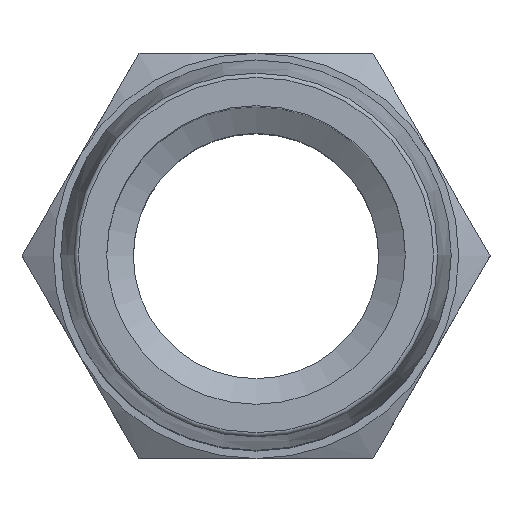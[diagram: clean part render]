
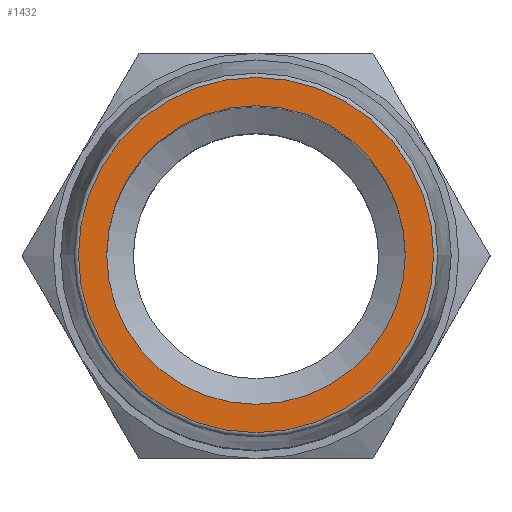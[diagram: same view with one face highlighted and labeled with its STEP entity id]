
A CAD part, top view. The second image highlights one B-rep face of the part: STEP entity #1432.
In plain terms, the highlighted planar face has unit normal (0, 0, 1) as drawn and (0, 1, 0) by its records, which use the part's own axes.
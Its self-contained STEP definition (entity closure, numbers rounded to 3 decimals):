
#817=ORIENTED_EDGE('',*,*,#964,.T.);
#818=ORIENTED_EDGE('',*,*,#965,.F.);
#858=CIRCLE('',#1373,8.327);
#859=CIRCLE('',#1375,7.);
#902=VERTEX_POINT('',#1572);
#903=VERTEX_POINT('',#1575);
#964=EDGE_CURVE('',#902,#902,#858,.T.);
#965=EDGE_CURVE('',#903,#903,#859,.T.);
#1017=EDGE_LOOP('',(#817));
#1018=EDGE_LOOP('',(#818));
#1077=FACE_BOUND('',#1017,.T.);
#1078=FACE_BOUND('',#1018,.T.);
#1264=DIRECTION('',(0.,1.,0.));
#1265=DIRECTION('',(8.327,0.,0.));
#1266=DIRECTION('',(0.,1.,0.));
#1267=DIRECTION('',(1.,0.,0.));
#1268=DIRECTION('',(0.,1.,0.));
#1269=DIRECTION('',(7.,0.,0.));
#1373=AXIS2_PLACEMENT_3D('',#1573,#1264,#1265);
#1374=AXIS2_PLACEMENT_3D('',#1574,#1266,#1267);
#1375=AXIS2_PLACEMENT_3D('',#1576,#1268,#1269);
#1398=PLANE('',#1374);
#1432=ADVANCED_FACE('',(#1077,#1078),#1398,.T.);
#1572=CARTESIAN_POINT('',(34.893,56.845,0.));
#1573=CARTESIAN_POINT('',(26.566,56.845,0.));
#1574=CARTESIAN_POINT('',(34.893,56.845,0.));
#1575=CARTESIAN_POINT('',(33.566,56.845,0.));
#1576=CARTESIAN_POINT('',(26.566,56.845,0.));
